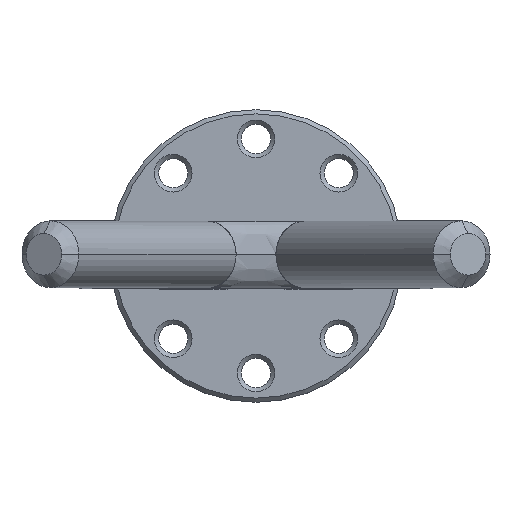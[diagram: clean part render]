
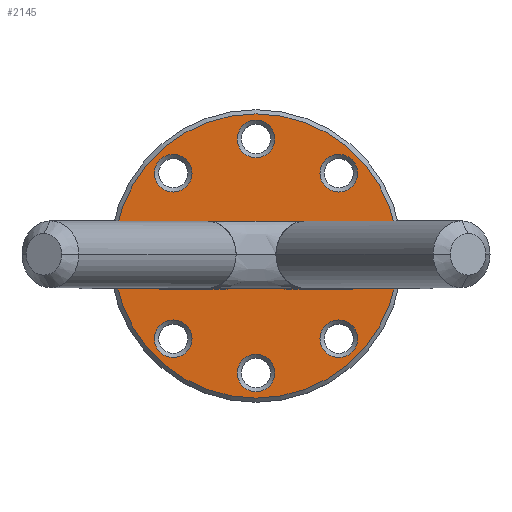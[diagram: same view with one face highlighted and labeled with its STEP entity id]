
A CAD part, top view. The second image highlights one B-rep face of the part: STEP entity #2145.
In plain terms, the highlighted planar face has unit normal (0, 0, 1).
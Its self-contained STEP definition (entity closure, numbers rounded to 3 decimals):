
#96=FACE_BOUND('',#358,.T.);
#97=FACE_BOUND('',#359,.T.);
#98=FACE_BOUND('',#360,.T.);
#99=FACE_BOUND('',#361,.T.);
#100=FACE_BOUND('',#362,.T.);
#101=FACE_BOUND('',#363,.T.);
#102=FACE_BOUND('',#364,.T.);
#103=FACE_BOUND('',#365,.T.);
#104=FACE_BOUND('',#366,.T.);
#112=PLANE('',#2337);
#198=FACE_OUTER_BOUND('',#357,.T.);
#357=EDGE_LOOP('',(#1490));
#358=EDGE_LOOP('',(#1491));
#359=EDGE_LOOP('',(#1492));
#360=EDGE_LOOP('',(#1493));
#361=EDGE_LOOP('',(#1494));
#362=EDGE_LOOP('',(#1495,#1496,#1497,#1498));
#363=EDGE_LOOP('',(#1499));
#364=EDGE_LOOP('',(#1500));
#365=EDGE_LOOP('',(#1501));
#366=EDGE_LOOP('',(#1502));
#522=LINE('',#3439,#651);
#523=LINE('',#3442,#652);
#651=VECTOR('',#2686,1.);
#652=VECTOR('',#2689,1.);
#789=CIRCLE('',#2336,4.5);
#790=CIRCLE('',#2338,34.);
#791=CIRCLE('',#2339,4.5);
#792=CIRCLE('',#2340,4.5);
#793=CIRCLE('',#2341,4.5);
#794=CIRCLE('',#2342,4.5);
#795=CIRCLE('',#2343,8.);
#796=CIRCLE('',#2344,8.);
#797=CIRCLE('',#2345,4.5);
#798=CIRCLE('',#2346,4.5);
#799=CIRCLE('',#2347,4.5);
#963=VERTEX_POINT('',#3421);
#964=VERTEX_POINT('',#3425);
#965=VERTEX_POINT('',#3427);
#966=VERTEX_POINT('',#3429);
#967=VERTEX_POINT('',#3431);
#968=VERTEX_POINT('',#3433);
#969=VERTEX_POINT('',#3435);
#970=VERTEX_POINT('',#3436);
#971=VERTEX_POINT('',#3438);
#972=VERTEX_POINT('',#3440);
#973=VERTEX_POINT('',#3443);
#974=VERTEX_POINT('',#3445);
#975=VERTEX_POINT('',#3447);
#1158=EDGE_CURVE('',#963,#963,#789,.T.);
#1159=EDGE_CURVE('',#964,#964,#790,.T.);
#1160=EDGE_CURVE('',#965,#965,#791,.T.);
#1161=EDGE_CURVE('',#966,#966,#792,.T.);
#1162=EDGE_CURVE('',#967,#967,#793,.T.);
#1163=EDGE_CURVE('',#968,#968,#794,.T.);
#1164=EDGE_CURVE('',#969,#970,#795,.T.);
#1165=EDGE_CURVE('',#970,#971,#522,.T.);
#1166=EDGE_CURVE('',#971,#972,#796,.T.);
#1167=EDGE_CURVE('',#972,#969,#523,.T.);
#1168=EDGE_CURVE('',#973,#973,#797,.T.);
#1169=EDGE_CURVE('',#974,#974,#798,.T.);
#1170=EDGE_CURVE('',#975,#975,#799,.T.);
#1490=ORIENTED_EDGE('',*,*,#1159,.F.);
#1491=ORIENTED_EDGE('',*,*,#1160,.F.);
#1492=ORIENTED_EDGE('',*,*,#1161,.F.);
#1493=ORIENTED_EDGE('',*,*,#1162,.F.);
#1494=ORIENTED_EDGE('',*,*,#1163,.F.);
#1495=ORIENTED_EDGE('',*,*,#1164,.T.);
#1496=ORIENTED_EDGE('',*,*,#1165,.T.);
#1497=ORIENTED_EDGE('',*,*,#1166,.T.);
#1498=ORIENTED_EDGE('',*,*,#1167,.T.);
#1499=ORIENTED_EDGE('',*,*,#1168,.F.);
#1500=ORIENTED_EDGE('',*,*,#1169,.F.);
#1501=ORIENTED_EDGE('',*,*,#1170,.F.);
#1502=ORIENTED_EDGE('',*,*,#1158,.F.);
#2145=ADVANCED_FACE('',(#198,#96,#97,#98,#99,#100,#101,#102,#103,#104),
#112,.F.);
#2336=AXIS2_PLACEMENT_3D('',#3423,#2670,#2671);
#2337=AXIS2_PLACEMENT_3D('',#3424,#2672,#2673);
#2338=AXIS2_PLACEMENT_3D('',#3426,#2674,#2675);
#2339=AXIS2_PLACEMENT_3D('',#3428,#2676,#2677);
#2340=AXIS2_PLACEMENT_3D('',#3430,#2678,#2679);
#2341=AXIS2_PLACEMENT_3D('',#3432,#2680,#2681);
#2342=AXIS2_PLACEMENT_3D('',#3434,#2682,#2683);
#2343=AXIS2_PLACEMENT_3D('',#3437,#2684,#2685);
#2344=AXIS2_PLACEMENT_3D('',#3441,#2687,#2688);
#2345=AXIS2_PLACEMENT_3D('',#3444,#2690,#2691);
#2346=AXIS2_PLACEMENT_3D('',#3446,#2692,#2693);
#2347=AXIS2_PLACEMENT_3D('',#3448,#2694,#2695);
#2670=DIRECTION('center_axis',(0.,0.,1.));
#2671=DIRECTION('ref_axis',(-1.,0.,0.));
#2672=DIRECTION('center_axis',(0.,0.,-1.));
#2673=DIRECTION('ref_axis',(-1.,0.,0.));
#2674=DIRECTION('center_axis',(0.,0.,-1.));
#2675=DIRECTION('ref_axis',(-1.,0.,0.));
#2676=DIRECTION('center_axis',(0.,0.,1.));
#2677=DIRECTION('ref_axis',(-1.,0.,0.));
#2678=DIRECTION('center_axis',(0.,0.,1.));
#2679=DIRECTION('ref_axis',(-1.,0.,0.));
#2680=DIRECTION('center_axis',(0.,0.,1.));
#2681=DIRECTION('ref_axis',(1.,0.,0.));
#2682=DIRECTION('center_axis',(0.,0.,1.));
#2683=DIRECTION('ref_axis',(1.,0.,0.));
#2684=DIRECTION('center_axis',(0.,0.,-1.));
#2685=DIRECTION('ref_axis',(-1.,0.,0.));
#2686=DIRECTION('',(1.,0.,0.));
#2687=DIRECTION('center_axis',(0.,0.,-1.));
#2688=DIRECTION('ref_axis',(1.,0.,0.));
#2689=DIRECTION('',(-1.,0.,0.));
#2690=DIRECTION('center_axis',(0.,0.,1.));
#2691=DIRECTION('ref_axis',(1.,0.,0.));
#2692=DIRECTION('center_axis',(0.,0.,1.));
#2693=DIRECTION('ref_axis',(1.,0.,0.));
#2694=DIRECTION('center_axis',(0.,0.,1.));
#2695=DIRECTION('ref_axis',(-1.,0.,0.));
#3421=CARTESIAN_POINT('',(24.299,19.799,8.));
#3423=CARTESIAN_POINT('Origin',(19.799,19.799,8.));
#3424=CARTESIAN_POINT('Origin',(0.,0.,8.));
#3425=CARTESIAN_POINT('',(34.,0.,8.));
#3426=CARTESIAN_POINT('Origin',(0.,0.,8.));
#3427=CARTESIAN_POINT('',(24.299,-19.799,8.));
#3428=CARTESIAN_POINT('Origin',(19.799,-19.799,8.));
#3429=CARTESIAN_POINT('',(-15.299,19.799,8.));
#3430=CARTESIAN_POINT('Origin',(-19.799,19.799,8.));
#3431=CARTESIAN_POINT('',(23.5,0.,8.));
#3432=CARTESIAN_POINT('Origin',(28.,0.,8.));
#3433=CARTESIAN_POINT('',(-32.5,0.,8.));
#3434=CARTESIAN_POINT('Origin',(-28.,0.,8.));
#3435=CARTESIAN_POINT('',(-0.5,-2.784,8.));
#3436=CARTESIAN_POINT('',(-0.5,2.784,8.));
#3437=CARTESIAN_POINT('Origin',(-8.,0.,8.));
#3438=CARTESIAN_POINT('',(0.5,2.784,8.));
#3439=CARTESIAN_POINT('',(0.25,2.784,8.));
#3440=CARTESIAN_POINT('',(0.5,-2.784,8.));
#3441=CARTESIAN_POINT('Origin',(8.,0.,8.));
#3442=CARTESIAN_POINT('',(-0.25,-2.784,8.));
#3443=CARTESIAN_POINT('',(-4.5,28.,8.));
#3444=CARTESIAN_POINT('Origin',(0.,28.,8.));
#3445=CARTESIAN_POINT('',(-4.5,-28.,8.));
#3446=CARTESIAN_POINT('Origin',(0.,-28.,8.));
#3447=CARTESIAN_POINT('',(-15.299,-19.799,8.));
#3448=CARTESIAN_POINT('Origin',(-19.799,-19.799,8.));
